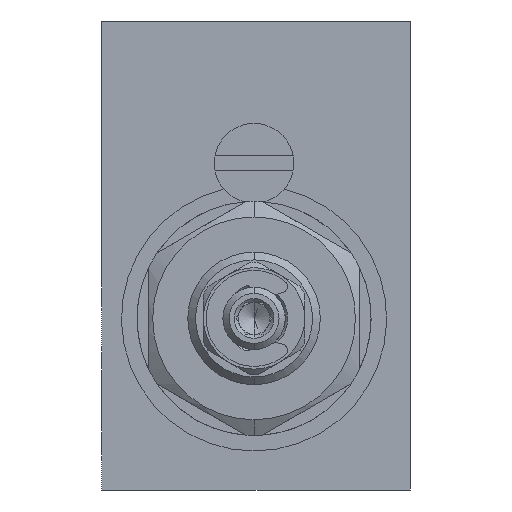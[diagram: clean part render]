
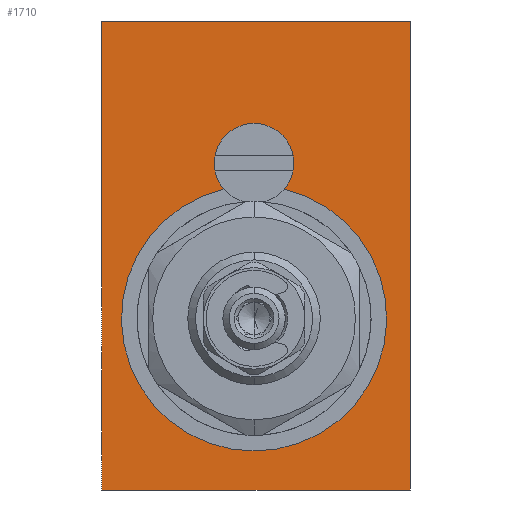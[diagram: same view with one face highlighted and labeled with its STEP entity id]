
A CAD part, left-side view. The second image highlights one B-rep face of the part: STEP entity #1710.
In plain terms, the highlighted planar face has unit normal (-1, 0, 0).
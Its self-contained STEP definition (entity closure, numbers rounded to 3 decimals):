
#605 = AXIS2_PLACEMENT_3D ( 'NONE', #6809, #6652, #6409 ) ;
#1692 = EDGE_CURVE ( 'NONE', #11085, #3079, #9892, .T. ) ;
#1710 = ADVANCED_FACE ( 'NONE', ( #6874, #7220 ), #5708, .T. ) ;
#1834 = EDGE_CURVE ( 'NONE', #3079, #6846, #9808, .T. ) ;
#1861 = EDGE_CURVE ( 'NONE', #12248, #6654, #6911, .T. ) ;
#1904 = EDGE_CURVE ( 'NONE', #10271, #12248, #5155, .T. ) ;
#1976 = EDGE_CURVE ( 'NONE', #10271, #10323, #3187, .T. ) ;
#2083 = EDGE_CURVE ( 'NONE', #10323, #6654, #12574, .T. ) ;
#2645 = EDGE_CURVE ( 'NONE', #6846, #11085, #4080, .T. ) ;
#3079 = VERTEX_POINT ( 'NONE', #11552 ) ;
#3184 = CARTESIAN_POINT ( 'NONE',  ( -55., 19.75, -30. ) ) ;
#3187 = LINE ( 'NONE', #10015, #10246 ) ;
#3532 = CARTESIAN_POINT ( 'NONE',  ( -55., 19.75, 30. ) ) ;
#4080 = CIRCLE ( 'NONE', #12824, 5.1 ) ;
#4307 = DIRECTION ( 'NONE',  ( 0., -1., 0. ) ) ;
#4355 = DIRECTION ( 'NONE',  ( -1., 0., 0. ) ) ;
#4385 = CARTESIAN_POINT ( 'NONE',  ( -55., 19.75, -30. ) ) ;
#5006 = CARTESIAN_POINT ( 'NONE',  ( -55., -19.75, 30. ) ) ;
#5155 = LINE ( 'NONE', #9346, #5294 ) ;
#5294 = VECTOR ( 'NONE', #9327, 1000. ) ;
#5708 = PLANE ( 'NONE',  #12697 ) ;
#6241 = DIRECTION ( 'NONE',  ( 0., 0., 1. ) ) ;
#6251 = CARTESIAN_POINT ( 'NONE',  ( -55., 19.75, -30.707 ) ) ;
#6409 = DIRECTION ( 'NONE',  ( 0., 0., 1. ) ) ;
#6523 = CARTESIAN_POINT ( 'NONE',  ( -55., -3.602, 8.558 ) ) ;
#6589 = EDGE_LOOP ( 'NONE', ( #12744, #8574, #8964 ) ) ;
#6652 = DIRECTION ( 'NONE',  ( -1., 0., 0. ) ) ;
#6654 = VERTEX_POINT ( 'NONE', #3532 ) ;
#6809 = CARTESIAN_POINT ( 'NONE',  ( -55., 0.25, 11.9 ) ) ;
#6846 = VERTEX_POINT ( 'NONE', #6523 ) ;
#6874 = FACE_OUTER_BOUND ( 'NONE', #10220, .T. ) ;
#6911 = LINE ( 'NONE', #10210, #9032 ) ;
#7220 = FACE_BOUND ( 'NONE', #6589, .T. ) ;
#8395 = DIRECTION ( 'NONE',  ( 0., 1., 0. ) ) ;
#8501 = VECTOR ( 'NONE', #6241, 1000. ) ;
#8574 = ORIENTED_EDGE ( 'NONE', *, *, #1834, .F. ) ;
#8616 = ORIENTED_EDGE ( 'NONE', *, *, #2083, .F. ) ;
#8964 = ORIENTED_EDGE ( 'NONE', *, *, #1692, .F. ) ;
#9032 = VECTOR ( 'NONE', #10199, 1000. ) ;
#9316 = CARTESIAN_POINT ( 'NONE',  ( -55., 0.25, 17. ) ) ;
#9327 = DIRECTION ( 'NONE',  ( 0., 0., 1. ) ) ;
#9346 = CARTESIAN_POINT ( 'NONE',  ( -55., -19.75, -30.707 ) ) ;
#9761 = AXIS2_PLACEMENT_3D ( 'NONE', #10743, #10733, #10721 ) ;
#9808 = CIRCLE ( 'NONE', #9761, 17. ) ;
#9892 = CIRCLE ( 'NONE', #605, 5.1 ) ;
#10015 = CARTESIAN_POINT ( 'NONE',  ( -55., -20.457, -30. ) ) ;
#10199 = DIRECTION ( 'NONE',  ( 0., 1., 0. ) ) ;
#10210 = CARTESIAN_POINT ( 'NONE',  ( -55., -20.457, 30. ) ) ;
#10220 = EDGE_LOOP ( 'NONE', ( #8616, #10496, #10412, #10617 ) ) ;
#10238 = CARTESIAN_POINT ( 'NONE',  ( -55., -19.75, -30. ) ) ;
#10246 = VECTOR ( 'NONE', #8395, 1000. ) ;
#10271 = VERTEX_POINT ( 'NONE', #10238 ) ;
#10323 = VERTEX_POINT ( 'NONE', #3184 ) ;
#10332 = DIRECTION ( 'NONE',  ( 0., 0., 1. ) ) ;
#10412 = ORIENTED_EDGE ( 'NONE', *, *, #1904, .T. ) ;
#10496 = ORIENTED_EDGE ( 'NONE', *, *, #1976, .F. ) ;
#10617 = ORIENTED_EDGE ( 'NONE', *, *, #1861, .T. ) ;
#10721 = DIRECTION ( 'NONE',  ( 0., 0., 1. ) ) ;
#10733 = DIRECTION ( 'NONE',  ( -1., 0., 0. ) ) ;
#10743 = CARTESIAN_POINT ( 'NONE',  ( -55., 0.25, -8. ) ) ;
#11085 = VERTEX_POINT ( 'NONE', #9316 ) ;
#11552 = CARTESIAN_POINT ( 'NONE',  ( -55., 4.102, 8.558 ) ) ;
#12248 = VERTEX_POINT ( 'NONE', #5006 ) ;
#12574 = LINE ( 'NONE', #6251, #8501 ) ;
#12697 = AXIS2_PLACEMENT_3D ( 'NONE', #4385, #4355, #4307 ) ;
#12712 = DIRECTION ( 'NONE',  ( -1., 0., 0. ) ) ;
#12744 = ORIENTED_EDGE ( 'NONE', *, *, #2645, .F. ) ;
#12824 = AXIS2_PLACEMENT_3D ( 'NONE', #13272, #12712, #10332 ) ;
#13272 = CARTESIAN_POINT ( 'NONE',  ( -55., 0.25, 11.9 ) ) ;
